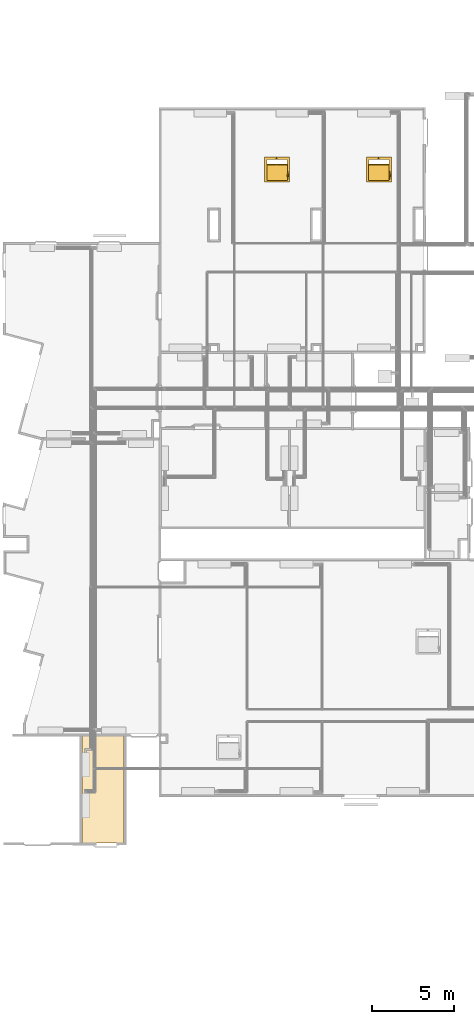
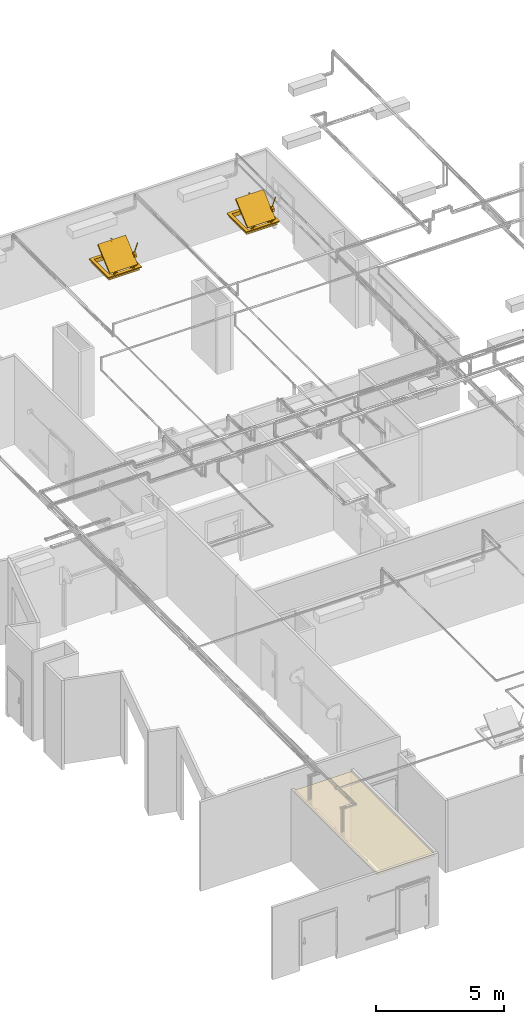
# One storey, part 40 of 652: 2 windows, 1 covering.
"""IFC2X3 building model written with IfcOpenShell, lengths in millimetres."""

from ifc_helpers import new_model, entity, si_unit, converted_unit, direction, frame, frame_2d, origin, place, context, subcontext, project, spatial, rectangle, extrude, faceted_brep, source, transform, mapped, material, material_list, layer, layer_set, layer_usage, type_object, type_shapes, element, save


model = new_model("IFC2X3")

# Units and contexts
model_context = context("Model", 3, precision=0.01, world=frame((0.0, 0.0, 308426.39999999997)), true_north=direction((6.123233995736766e-17, 1.0)))
plan_context = context("Plan", 3, precision=0.01, world=frame((0.0, 0.0, 308426.39999999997)), true_north=direction((6.123233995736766e-17, 1.0)))
body_context = subcontext(model_context, "Body", "Model", "MODEL_VIEW")
ifc_project = project(units=[si_unit("LENGTHUNIT", "METRE", prefix="MILLI"), si_unit("AREAUNIT", "SQUARE_METRE"), si_unit("VOLUMEUNIT", "CUBIC_METRE"), converted_unit("PLANEANGLEUNIT", "DEGREE", entity("IfcPlaneAngleMeasure", 0.017453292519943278), si_unit("PLANEANGLEUNIT", "RADIAN"), dimensions=[0, 0, 0, 0, 0, 0, 0])], contexts=[model_context, plan_context])

# Site, building, storey
site_placement = place(None, origin())
site = spatial("IfcSite", under=ifc_project, at=site_placement, Name="Default", CompositionType="ELEMENT")
building_placement = place(site_placement, origin())
building = spatial("IfcBuilding", under=site, at=building_placement, CompositionType="ELEMENT")
storey_placement = place(building_placement, frame((0.0, 0.0, 1730.6999999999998)))
storey = spatial("IfcBuildingStorey", under=building, at=storey_placement, Name="EG_Produktion_FFB", CompositionType="ELEMENT", Elevation=1730.6999999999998)

# Windows
ifc_material_1 = material(Name="Aluminium")
ifc_material_2 = material(Name="Edelstahl, gebürstet")
ifc_material_3 = material(Name="RAL 9002")
ifc_material_4 = material(Name="PVC, hart")
ifc_material_5 = material(Name="Edelstahl")
ifc_material_6 = material(Name="<Unnamed>")
ifc_material_list = material_list([ifc_material_1, ifc_material_2, ifc_material_3, ifc_material_4, ifc_material_5, ifc_material_6])
window_style = type_object("IfcWindowStyle", Name="Entrauchungsluke Typ RWA12 elektrisch:Entrauchungsluke", ConstructionType="NOTDEFINED", OperationType="NOTDEFINED", ParameterTakesPrecedence=False, Sizeable=False, material=ifc_material_list)
shared_shape = source(origin(), body_context, "Body", "Brep", [
    faceted_brep([(162.62066647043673, 657.4999999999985, 66.08964888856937), (158.0, 662.4999999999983, 68.0), (300.1301226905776, 662.4999999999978, 411.7775854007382), (304.7507891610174, 657.4999999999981, 409.8672342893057), (153.37933352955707, 657.4999999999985, 69.91035111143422), (295.50945622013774, 657.4999999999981, 413.68793651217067), (158.0, 652.4999999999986, 68.0), (300.13012269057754, 652.4999999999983, 411.7775854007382), (278.8750569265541, 657.4999999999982, 420.5652005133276), (283.3111001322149, 660.9875640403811, 418.7311793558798), (287.7471433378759, 664.475128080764, 416.89715819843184), (292.786678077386, 668.4371499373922, 414.8136317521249), (296.26458336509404, 671.1714374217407, 413.3757395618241), (299.742488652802, 673.9057249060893, 411.9378473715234), (303.22039394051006, 676.6400123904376, 410.4999551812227), (306.69829922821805, 679.3742998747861, 409.06206299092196), (282.3874984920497, 652.268653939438, 419.1130297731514), (286.2185015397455, 646.562850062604, 417.52915416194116), (289.8902238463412, 641.094275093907, 416.01113098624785), (293.561946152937, 635.6257001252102, 414.4931078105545), (321.38518845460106, 657.499999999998, 402.9899702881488), (316.9491452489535, 654.0124359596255, 404.82399144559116), (312.5131020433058, 650.5248719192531, 406.6580126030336), (307.4735673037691, 646.5628500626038, 408.7415390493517), (303.99566201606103, 643.8285625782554, 410.1794312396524), (300.51775672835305, 641.0942750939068, 411.6173234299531), (297.039851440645, 638.3599876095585, 413.0552156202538), (310.3700215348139, 673.9057249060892, 407.5440398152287), (314.04174384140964, 668.4371499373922, 406.0260166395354), (317.7134661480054, 662.968574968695, 404.507993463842), (611.6109382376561, 667.9626921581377, 1124.8700145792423), (615.1233798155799, 662.7313460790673, 1123.417843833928), (618.6358213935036, 657.4999999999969, 1121.9656730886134), (603.9489321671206, 679.3742998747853, 1128.0377657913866), (607.7799352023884, 673.6684960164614, 1126.4538901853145), (576.1256898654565, 657.4999999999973, 1139.5409033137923), (580.5617330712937, 660.9875640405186, 1137.7068821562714), (584.9977762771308, 664.47512808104, 1135.8728609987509), (589.433819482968, 667.9626921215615, 1134.03883984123), (593.8698626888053, 671.4502561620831, 1132.2048186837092), (598.9093974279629, 675.4122780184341, 1130.121292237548), (614.199778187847, 654.0124359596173, 1123.7996942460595), (609.7637349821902, 650.5248719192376, 1125.633715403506), (605.3276917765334, 647.0373078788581, 1127.467736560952), (600.8916485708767, 643.5497438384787, 1129.3017577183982), (595.852113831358, 639.5877219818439, 1131.3852841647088), (590.8125790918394, 635.625700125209, 1133.4688106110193), (583.469134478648, 646.5628500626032, 1136.5048569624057), (579.7974121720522, 652.0314250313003, 1138.022880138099), (587.1408567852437, 641.094275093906, 1134.9868337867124), (597.380755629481, 657.4999999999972, 1130.7532882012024), (158.0, 657.4999999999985, 68.0)], [[[0, 1, 2, 3]], [[1, 4, 5, 2]], [[5, 4, 6, 7]], [[6, 0, 3, 7]], [[2, 5, 8]], [[2, 8, 9]], [[2, 9, 10]], [[2, 10, 11]], [[2, 11, 12]], [[2, 12, 13]], [[2, 13, 14]], [[2, 14, 15]], [[2, 15, 3]], [[5, 16, 8]], [[5, 17, 16]], [[5, 18, 17]], [[5, 19, 18]], [[7, 19, 5]], [[3, 20, 7]], [[7, 20, 21]], [[7, 21, 22]], [[7, 22, 23]], [[7, 23, 24]], [[7, 24, 25]], [[7, 25, 26]], [[7, 26, 19]], [[3, 15, 27]], [[3, 27, 28]], [[3, 28, 29]], [[3, 29, 20]], [[30, 31, 32, 20, 29, 28, 27, 15, 33, 34]], [[10, 9, 8, 35, 36, 37, 38, 39, 40, 33, 15, 14, 13, 12, 11]], [[26, 25, 24, 23, 22, 21, 20, 32, 41, 42, 43, 44, 45, 46, 19]], [[47, 48, 35, 8, 16, 17, 18, 19, 46, 49]], [[50, 33, 40]], [[50, 40, 39]], [[50, 39, 38]], [[50, 38, 37]], [[50, 37, 36]], [[50, 36, 35]], [[50, 35, 48]], [[50, 34, 33]], [[50, 30, 34]], [[50, 31, 30]], [[50, 32, 31]], [[50, 48, 47]], [[50, 47, 49]], [[50, 49, 46]], [[50, 46, 45]], [[50, 45, 44]], [[50, 44, 43]], [[50, 43, 42]], [[50, 42, 41]], [[50, 41, 32]], [[1, 51, 4]], [[51, 1, 0]], [[6, 51, 0]], [[51, 6, 4]]]),
    faceted_brep([(468.9776566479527, 693.0, 368.3156556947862), (426.33381976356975, 693.0, 319.25953298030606), (256.5241642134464, 693.0, 466.8728145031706), (348.3724282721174, 693.0, 572.5321557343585), (461.57886530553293, 693.0, 474.1233013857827), (468.9776566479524, 596.0, 368.3156556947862), (461.5788653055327, 596.0, 474.1233013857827), (348.3724282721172, 596.0, 572.5321557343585), (256.52416421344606, 596.0, 466.8728145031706), (426.33381976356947, 596.0, 319.25953298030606)], [[[0, 1, 2, 3, 4]], [[5, 6, 7, 8, 9]], [[1, 0, 5, 9]], [[2, 1, 9, 8]], [[3, 2, 8, 7]], [[4, 3, 7, 6]], [[0, 4, 6, 5]]]),
    faceted_brep([(-293.4844221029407, 4.375000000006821, 1007.2635949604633), (-291.8334948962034, 6.5625000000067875, 1005.8284658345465), (-290.18256768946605, 8.750000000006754, 1004.3933367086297), (-288.5316404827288, 10.937500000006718, 1002.958207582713), (-286.8807132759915, 13.125000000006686, 1001.5230784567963), (-285.2297860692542, 15.312500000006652, 1000.0879493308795), (-283.57885886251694, 17.50000000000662, 998.6528202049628), (-303.2606297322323, 17.500000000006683, 976.0115327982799), (-304.91155693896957, 15.312500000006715, 977.4466619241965), (-306.5624841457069, 13.12500000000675, 978.8817910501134), (-308.21341135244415, 10.937500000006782, 980.31692017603), (-309.8643385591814, 8.750000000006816, 981.7520493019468), (-311.379908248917, 6.74185046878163, 983.0695139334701), (-312.89547793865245, 4.733700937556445, 984.3869785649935), (-314.6817626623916, 2.366850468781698, 985.9397721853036), (-316.4680473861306, 0.0, 987.4925658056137), (-296.7862765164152, 0.0, 1010.1338532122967), (-294.9999917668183, 2.3668505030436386, 1008.5810595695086), (-301.74505999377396, 15.491850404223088, 974.6940681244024), (-281.9279316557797, 15.312500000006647, 997.2176910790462), (-280.2770044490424, 13.125000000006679, 995.7825619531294), (-278.62607724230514, 10.937500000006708, 994.3474328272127), (-276.9751500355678, 8.75000000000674, 992.9123037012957), (-275.45958028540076, 6.741850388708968, 991.5948390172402), (-273.9440105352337, 4.73370077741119, 990.2773743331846), (-272.15772587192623, 2.366850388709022, 988.7245807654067), (-270.3714412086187, 0.0, 987.171787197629), (-290.05321207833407, 0.0, 964.530499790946), (-291.8394967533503, 2.3668504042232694, 966.0832933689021), (-293.62578142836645, 4.7337008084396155, 967.6360869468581), (-295.4120661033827, 7.100551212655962, 969.188880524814), (-297.1983507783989, 9.467401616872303, 970.7416741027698), (-298.71392051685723, 11.475551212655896, 972.0591387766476), (-300.2294902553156, 13.48370080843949, 973.3766034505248), (-273.6732956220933, -4.374999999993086, 990.0420454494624), (-275.32422282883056, -6.562499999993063, 991.4771745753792), (-276.9751500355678, -8.749999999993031, 992.912303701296), (-278.62607724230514, -10.937499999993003, 994.3474328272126), (-280.2770044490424, -13.124999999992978, 995.7825619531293), (-281.9279316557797, -15.312499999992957, 997.2176910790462), (-283.578858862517, -17.499999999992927, 998.6528202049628), (-303.26062973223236, -17.499999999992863, 976.0115327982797), (-301.60970252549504, -15.312499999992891, 974.5764036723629), (-299.9587753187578, -13.124999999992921, 973.1412745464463), (-298.3078481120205, -10.93749999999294, 971.7061454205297), (-296.6569209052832, -8.749999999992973, 970.2710162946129), (-295.14135124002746, -6.741850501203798, 968.9535516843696), (-293.62578157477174, -4.733701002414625, 967.6360870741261), (-291.8394968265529, -2.366850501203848, 966.083293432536), (-272.15772598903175, -2.3668505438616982, 988.7245808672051), (-304.7761995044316, -15.491850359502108, 977.3289975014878), (-285.22978606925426, -15.312499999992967, 1000.0879493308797), (-286.8807132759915, -13.124999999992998, 1001.5230784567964), (-288.5316404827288, -10.937499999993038, 1002.9582075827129), (-290.1825676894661, -8.74999999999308, 1004.3933367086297), (-291.6981374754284, -6.741850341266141, 1005.710801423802), (-293.2137072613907, -4.733700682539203, 1007.0282661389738), (-294.99999188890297, -2.366850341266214, 1008.5810596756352), (-314.6817627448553, -2.36685035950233, 985.9397722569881), (-312.89547810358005, -4.733700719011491, 984.3869787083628), (-311.10919346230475, -7.100551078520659, 982.8341851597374), (-309.3229088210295, -9.467401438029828, 981.2813916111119), (-307.8073390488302, -11.475551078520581, 979.9639269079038), (-306.29176927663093, -13.483700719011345, 978.6464622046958), (-295.71353393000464, 0.0, 969.4509425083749), (-307.034177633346, 8.660254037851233, 979.2918279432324), (-299.4870818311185, -8.6602540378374, 972.7312376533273), (-310.80772553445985, 0.0, 982.5721230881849), (-320.6486109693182, 0.0, 971.2514793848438), (-316.8750630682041, 8.660254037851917, 967.9711842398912), (-305.5544193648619, 0.0, 958.1302988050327), (-309.327967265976, -8.66025403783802, 961.4105939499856), (-310.08267684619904, 0.0, 962.0666529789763), (-313.10151516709, 4.0, 964.6908890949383), (-313.10151516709, -4.0, 964.6908890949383), (-316.120353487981, 0.0, 967.3151252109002), (-335.8021243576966, 0.0, 944.6738378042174), (-332.7832860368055, 4.0, 942.0496016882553), (-329.7644477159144, 0.0, 939.4253655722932), (-332.7832860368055, -4.0, 942.0496016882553), (-332.7832860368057, 0.0, 942.0496016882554), (-283.5788588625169, 0.0, 998.6528202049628)], [[[0, 1, 2, 3, 4, 5, 6, 7, 8, 9, 10, 11, 12, 13, 14, 15, 16, 17]], [[18, 7, 6, 19, 20, 21, 22, 23, 24, 25, 26, 27, 28, 29, 30, 31, 32, 33]], [[34, 35, 36, 37, 38, 39, 40, 41, 42, 43, 44, 45, 46, 47, 48, 27, 26, 49]], [[50, 41, 40, 51, 52, 53, 54, 55, 56, 57, 16, 15, 58, 59, 60, 61, 62, 63]], [[64, 7, 18]], [[7, 64, 65]], [[64, 18, 33]], [[64, 33, 32]], [[64, 32, 31]], [[64, 31, 30]], [[64, 30, 29]], [[64, 29, 28]], [[64, 28, 27]], [[27, 66, 64]], [[65, 8, 7]], [[65, 9, 8]], [[65, 10, 9]], [[65, 11, 10]], [[65, 12, 11]], [[65, 13, 12]], [[65, 14, 13]], [[65, 15, 14]], [[65, 67, 15]], [[41, 67, 66]], [[67, 41, 50]], [[67, 50, 63]], [[67, 63, 62]], [[67, 62, 61]], [[67, 61, 60]], [[67, 60, 59]], [[67, 59, 58]], [[67, 58, 15]], [[66, 27, 48]], [[66, 48, 47]], [[66, 47, 46]], [[66, 46, 45]], [[66, 45, 44]], [[66, 44, 43]], [[66, 43, 42]], [[66, 42, 41]], [[68, 67, 65, 69]], [[65, 64, 70, 69]], [[70, 64, 66, 71]], [[66, 67, 68, 71]], [[70, 72, 73]], [[70, 73, 69]], [[70, 71, 72]], [[72, 71, 74]], [[68, 74, 71]], [[75, 68, 69]], [[74, 68, 75]], [[75, 69, 73]], [[76, 75, 73, 77]], [[73, 72, 78, 77]], [[78, 72, 74, 79]], [[74, 75, 76, 79]], [[78, 80, 77]], [[78, 79, 80]], [[76, 80, 79]], [[76, 77, 80]], [[81, 26, 25]], [[81, 25, 24]], [[81, 24, 23]], [[81, 23, 22]], [[81, 22, 21]], [[81, 21, 20]], [[81, 20, 19]], [[81, 19, 6]], [[81, 6, 5]], [[81, 5, 4]], [[81, 4, 3]], [[81, 3, 2]], [[81, 2, 1]], [[81, 1, 0]], [[81, 0, 17]], [[81, 17, 16]], [[81, 16, 57]], [[81, 49, 26]], [[81, 34, 49]], [[81, 35, 34]], [[81, 36, 35]], [[81, 37, 36]], [[81, 38, 37]], [[81, 39, 38]], [[81, 40, 39]], [[81, 57, 56]], [[81, 56, 55]], [[81, 55, 54]], [[81, 54, 53]], [[81, 53, 52]], [[81, 52, 51]], [[81, 51, 40]]]),
    faceted_brep([(-331.3352769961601, -30.0, 1017.6416202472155), (-233.22303156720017, -30.0, 932.3539464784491), (-230.59879545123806, -30.0, 935.3727847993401), (-328.71104088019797, -30.0, 1020.6604585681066), (-331.3352769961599, 30.0, 1017.6416202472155), (-328.71104088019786, 30.0, 1020.6604585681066), (-230.59879545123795, 30.0, 935.3727847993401), (-233.22303156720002, 30.0, 932.3539464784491)], [[[0, 1, 2, 3]], [[4, 5, 6, 7]], [[1, 0, 4, 7]], [[2, 1, 7, 6]], [[3, 2, 6, 5]], [[0, 3, 5, 4]]]),
    faceted_brep([(590.5100687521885, -596.0, 110.2926474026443), (-309.1037508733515, -596.0, 892.3150099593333), (-335.34611203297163, -596.0, 862.1266267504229), (564.267707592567, -596.0, 80.10426419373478), (590.5100687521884, 596.0, 110.29264740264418), (564.267707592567, 596.0, 80.10426419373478), (-335.34611203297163, 596.0, 862.1266267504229), (-309.1037508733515, 596.0, 892.3150099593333)], [[[0, 1, 2, 3]], [[4, 5, 6, 7]], [[1, 0, 4, 7]], [[2, 1, 7, 6]], [[3, 2, 6, 5]], [[0, 3, 5, 4]]]),
    faceted_brep([(625.5178271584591, 376.0, 106.36112716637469), (645.1995980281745, 376.0, 129.00241457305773), (667.8408854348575, 376.0, 109.32064370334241), (669.0617660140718, 376.0, 105.77494904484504), (670.2826465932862, 376.0, 102.22925438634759), (671.5035271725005, 376.0, 98.68355972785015), (672.7244077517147, 376.0, 95.13786506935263), (670.2641863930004, 376.0, 92.3077041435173), (667.8039650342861, 376.0, 89.47754321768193), (665.3437436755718, 376.0, 86.64738229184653), (662.8835223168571, 376.0, 83.81722136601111), (659.2024203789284, 376.0, 84.53275509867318), (655.5213184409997, 376.0, 85.24828883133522), (651.6524966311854, 376.0, 86.00031161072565), (648.1591145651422, 376.0, 86.67935629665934), (672.7244077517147, 281.0, 95.13786506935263), (671.4412676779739, 281.0, 98.86437442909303), (670.1581276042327, 281.0, 102.59088378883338), (668.9995065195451, 281.0, 105.95576374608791), (667.8408854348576, 281.0, 109.32064370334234), (645.1995980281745, 281.0, 129.00241457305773), (625.5178271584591, 281.0, 106.36112716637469), (648.1591145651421, 281.0, 86.67935629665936), (651.8402165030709, 281.0, 85.96382256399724), (655.5213184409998, 281.0, 85.2482888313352), (659.2024203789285, 281.0, 84.53275509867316), (662.8835223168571, 281.0, 83.81722136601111), (665.3437436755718, 281.0, 86.64738229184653), (667.8039650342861, 281.0, 89.47754321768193), (670.2641863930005, 281.0, 92.30770414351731)], [[[0, 1, 2, 3, 4, 5, 6, 7, 8, 9, 10, 11, 12, 13, 14]], [[15, 16, 17, 18, 19, 20, 21, 22, 23, 24, 25, 26, 27, 28, 29]], [[1, 0, 21, 20]], [[0, 14, 22, 21]], [[4, 3, 2, 19, 18, 17, 16, 15, 6, 5]], [[23, 22, 14, 13, 12, 11, 10, 26, 25, 24]], [[9, 8, 7, 6, 15, 29, 28, 27, 26, 10]], [[2, 1, 20, 19]]]),
    faceted_brep([(643.0, 471.0, 50.0), (643.0, 471.0, 98.0), (644.8749999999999, 471.0, 101.24759526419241), (646.7499999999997, 471.0, 104.49519052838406), (648.6249999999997, 471.0, 107.74278579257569), (650.4999999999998, 471.0, 110.9903810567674), (654.2499999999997, 471.0, 110.99038105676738), (658.0, 471.0, 110.99038105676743), (661.7499999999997, 471.0, 110.99038105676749), (665.4999999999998, 471.0, 110.99038105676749), (667.3749999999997, 471.0, 107.74278579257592), (669.2499999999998, 471.0, 104.49519052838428), (671.220616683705, 471.0, 101.08198230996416), (673.0, 471.0, 98.0), (673.0, 471.0, 50.0), (643.0, 376.0, 98.0), (643.0, 376.0, 50.0), (673.0, 376.0, 50.0), (673.0, 376.0, 98.0), (671.1249999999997, 376.0, 101.24759526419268), (669.2499999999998, 376.0, 104.4951905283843), (667.3749999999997, 376.0, 107.74278579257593), (665.4999999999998, 376.0, 110.99038105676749), (661.7499999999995, 376.0, 110.9903810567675), (658.0, 376.0, 110.99038105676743), (654.2499999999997, 376.0, 110.99038105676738), (650.4999999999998, 376.0, 110.9903810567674), (648.5293833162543, 376.0, 107.57717283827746), (646.558766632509, 376.0, 104.16396461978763), (644.7793833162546, 376.0, 101.0819823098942)], [[[0, 1, 2, 3, 4, 5, 6, 7, 8, 9, 10, 11, 12, 13, 14]], [[15, 16, 17, 18, 19, 20, 21, 22, 23, 24, 25, 26, 27, 28, 29]], [[0, 14, 17, 16]], [[14, 13, 18, 17]], [[3, 2, 1, 15, 29, 28, 27, 26, 5, 4]], [[19, 18, 13, 12, 11, 10, 9, 22, 21, 20]], [[8, 7, 6, 5, 26, 25, 24, 23, 22, 9]], [[1, 0, 16, 15]]]),
    faceted_brep([(664.88136889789, -625.0, 151.64370197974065), (-278.50560638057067, -625.0, 971.7174882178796), (-330.99032869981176, -625.0, 911.3407218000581), (612.396646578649, -625.0, 91.26693556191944), (664.88136889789, 625.0, 151.64370197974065), (612.396646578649, 625.0, 91.26693556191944), (-330.99032869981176, 625.0, 911.3407218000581), (-278.50560638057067, 625.0, 971.7174882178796)], [[[0, 1, 2, 3]], [[4, 5, 6, 7]], [[1, 0, 4, 7]], [[2, 1, 7, 6]], [[3, 2, 6, 5]], [[0, 3, 5, 4]]]),
    faceted_brep([(648.1591145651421, -376.0, 86.6793562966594), (651.8402165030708, -376.0, 85.96382256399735), (655.5213184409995, -376.0, 85.24828883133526), (659.2024203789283, -376.0, 84.53275509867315), (662.883522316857, -376.0, 83.81722136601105), (665.3437436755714, -376.0, 86.64738229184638), (667.8039650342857, -376.0, 89.47754321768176), (670.2641863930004, -376.0, 92.30770414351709), (672.7244077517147, -376.0, 95.13786506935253), (671.5035271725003, -376.0, 98.6835597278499), (670.2826465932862, -376.0, 102.22925438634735), (668.9995065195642, -376.0, 105.95576374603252), (667.8408854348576, -376.0, 109.32064370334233), (645.1995980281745, -376.0, 129.00241457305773), (625.5178271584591, -376.0, 106.36112716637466), (667.8408854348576, -281.0, 109.32064370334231), (669.0617660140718, -281.0, 105.7749490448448), (670.2826465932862, -281.0, 102.22925438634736), (671.5035271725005, -281.0, 98.6835597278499), (672.7244077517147, -281.0, 95.13786506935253), (670.2641863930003, -281.0, 92.30770414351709), (667.8039650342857, -281.0, 89.47754321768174), (665.3437436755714, -281.0, 86.64738229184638), (662.883522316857, -281.0, 83.81722136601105), (659.0147005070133, -281.0, 84.56924414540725), (655.1458786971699, -281.0, 85.32126692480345), (651.6524966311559, -281.0, 86.00031161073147), (648.1591145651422, -281.0, 86.67935629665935), (625.5178271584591, -281.0, 106.36112716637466), (645.1995980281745, -281.0, 129.00241457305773)], [[[0, 1, 2, 3, 4, 5, 6, 7, 8, 9, 10, 11, 12, 13, 14]], [[15, 16, 17, 18, 19, 20, 21, 22, 23, 24, 25, 26, 27, 28, 29]], [[14, 13, 29, 28]], [[0, 14, 28, 27]], [[2, 1, 0, 27, 26, 25, 24, 23, 4, 3]], [[16, 15, 12, 11, 10, 9, 8, 19, 18, 17]], [[7, 6, 5, 4, 23, 22, 21, 20, 19, 8]], [[13, 12, 15, 29]]]),
    faceted_brep([(673.0, -471.0, 98.0), (671.1249999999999, -471.0, 101.24759526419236), (669.25, -471.0, 104.49519052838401), (667.375, -471.0, 107.74278579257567), (665.5, -471.0, 110.9903810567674), (661.7500000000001, -471.0, 110.9903810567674), (658.0, -471.0, 110.99038105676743), (654.2500000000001, -471.0, 110.99038105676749), (650.4999999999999, -471.0, 110.99038105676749), (648.6250000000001, -471.0, 107.74278579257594), (646.75, -471.0, 104.49519052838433), (644.7793833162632, -471.0, 101.08198230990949), (643.0, -471.0, 98.0), (643.0, -471.0, 50.0), (673.0, -471.0, 50.0), (673.0, -376.0, 98.0), (673.0, -376.0, 50.0), (643.0, -376.0, 50.0), (643.0, -376.0, 98.0), (644.8749999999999, -376.0, 101.24759526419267), (646.75, -376.0, 104.49519052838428), (648.6250000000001, -376.0, 107.74278579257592), (650.4999999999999, -376.0, 110.99038105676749), (654.25, -376.0, 110.99038105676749), (658.0, -376.0, 110.99038105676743), (661.7500000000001, -376.0, 110.9903810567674), (665.5, -376.0, 110.9903810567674), (667.4706166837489, -376.0, 107.57717283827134), (669.4412333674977, -376.0, 104.16396461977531), (671.2206166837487, -376.0, 101.081982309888)], [[[0, 1, 2, 3, 4, 5, 6, 7, 8, 9, 10, 11, 12, 13, 14]], [[15, 16, 17, 18, 19, 20, 21, 22, 23, 24, 25, 26, 27, 28, 29]], [[14, 13, 17, 16]], [[0, 14, 16, 15]], [[2, 1, 0, 15, 29, 28, 27, 26, 4, 3]], [[19, 18, 12, 11, 10, 9, 8, 22, 21, 20]], [[7, 6, 5, 4, 26, 25, 24, 23, 22, 8]], [[13, 12, 18, 17]]]),
    faceted_brep([(-603.0, 603.0, 50.0), (-603.0, 603.0, 0.0), (603.0, 603.0, 0.0), (603.0, 603.0, 50.0), (-753.0, 753.0, 0.0), (-753.0, 753.0, 50.0), (753.0, 753.0, 50.0), (753.0, 753.0, 0.0), (603.0, -603.0, 0.0), (603.0, -603.0, 50.0), (753.0, -753.0, 50.0), (753.0, -753.0, 0.0), (-603.0, -603.0, 0.0), (-603.0, -603.0, 50.0), (-753.0, -753.0, 50.0), (-753.0, -753.0, 0.0)], [[[0, 1, 2, 3]], [[4, 5, 6, 7]], [[3, 2, 8, 9]], [[7, 6, 10, 11]], [[9, 8, 12, 13]], [[11, 10, 14, 15]], [[7, 11, 15, 4], [1, 12, 8, 2]], [[13, 12, 1, 0]], [[3, 9, 13, 0], [5, 14, 10, 6]], [[15, 14, 5, 4]]], outer=[[True], [True], [True], [True], [True], [True], [True, False], [True], [False, True], [True]]),
    faceted_brep([(-623.0, 623.0, -100.0), (-623.0, 623.0, 0.0), (623.0, 623.0, 0.0), (623.0, 623.0, -100.0), (-703.0, 703.0, -130.0), (-703.0, 703.0, -100.0), (703.0, 703.0, -100.0), (703.0, 703.0, -130.0), (-603.0, 603.0, 0.0), (-603.0, 603.0, -130.0), (603.0, 603.0, -130.0), (603.0, 603.0, 0.0), (623.0, -623.0, 0.0), (623.0, -623.0, -100.0), (703.0, -703.0, -100.0), (703.0, -703.0, -130.0), (603.0, -603.0, -130.0), (603.0, -603.0, 0.0), (-623.0, -623.0, 0.0), (-623.0, -623.0, -100.0), (-703.0, -703.0, -100.0), (-703.0, -703.0, -130.0), (-603.0, -603.0, -130.0), (-603.0, -603.0, 0.0)], [[[0, 1, 2, 3]], [[4, 5, 6, 7]], [[8, 9, 10, 11]], [[3, 2, 12, 13]], [[7, 6, 14, 15]], [[11, 10, 16, 17]], [[13, 12, 18, 19]], [[15, 14, 20, 21]], [[17, 16, 22, 23]], [[11, 17, 23, 8], [1, 18, 12, 2]], [[19, 18, 1, 0]], [[3, 13, 19, 0], [5, 20, 14, 6]], [[21, 20, 5, 4]], [[7, 15, 21, 4], [9, 22, 16, 10]], [[23, 22, 9, 8]]], outer=[[True], [True], [True], [True], [True], [True], [True], [True], [True], [False, True], [True], [False, True], [True], [True, False], [True]]),
    faceted_brep([(130.4999999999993, 642.5000000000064, 78.0), (83.0, 642.5000000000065, 60.0), (83.0, 642.5000000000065, 50.0), (233.0, 642.5000000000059, 50.0), (233.0, 642.5000000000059, 60.0), (185.49999999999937, 642.5000000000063, 78.0), (130.4999999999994, 672.5000000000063, 78.0), (185.49999999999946, 672.5000000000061, 78.0), (233.0, 672.5000000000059, 60.0), (233.0, 672.5000000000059, 50.0), (83.0, 672.5000000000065, 50.0), (83.0, 672.5000000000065, 60.0)], [[[0, 1, 2, 3, 4, 5]], [[6, 7, 8, 9, 10, 11]], [[1, 0, 6, 11]], [[2, 1, 11, 10]], [[3, 2, 10, 9]], [[4, 3, 9, 8]], [[5, 4, 8, 7]], [[0, 5, 7, 6]]]),
    faceted_brep([(-689.0, 12.0, 99.0), (-689.0, -70.0, 99.0), (-644.0, -70.0, 99.0), (-644.0, 12.0, 99.0), (-689.0, 12.0, 50.0), (-644.0, 12.0, 50.0), (-644.0, -70.0, 50.0), (-689.0, -70.0, 50.0)], [[[0, 1, 2, 3]], [[4, 5, 6, 7]], [[1, 0, 4, 7]], [[2, 1, 7, 6]], [[3, 2, 6, 5]], [[0, 3, 5, 4]]]),
])
type_shapes(window_style, [shared_shape])
for number, where, z_axis, x_axis, name in (
    (1, (26340.000000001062, 74425.0, 3100.0), (0.0, 0.0, 1.0), (0.0, -1.0, 0.0), "Entrauchungsluke Typ RWA12 elektrisch:Entrauchungsluke"),
    (2, (32550.000000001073, 74425.0, 3100.0), (0.0, 0.0, 1.0), (0.0, -1.0, 0.0), "Entrauchungsluke Typ RWA12 elektrisch:Entrauchungsluke"),
):
    element("IfcWindow", number, at=place(storey_placement, frame(where, z_axis=z_axis, x_axis=x_axis)), inside=storey, type_object=window_style, material=ifc_material_list, Name=name, ObjectType="Entrauchungsluke Typ RWA12 elektrisch:Entrauchungsluke", OverallHeight=1506.0000000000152, OverallWidth=1505.999999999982, context=body_context, shape_type="MappedRepresentation", body=[
        mapped(shared_shape, transform((0.0, 0.0, 0.0), scale=1.0)),
    ])

# Covering
ifc_material_7 = material(Name="GPG_Kühlraum")
ifc_layer_1 = layer(ifc_material_7, 8.0)
ifc_layer_2 = layer(ifc_material_7, 84.0)
ifc_layer_3 = layer(ifc_material_7, 8.0)
ifc_layer_set = layer_set([ifc_layer_1, ifc_layer_2, ifc_layer_3], Name="Deckensystem:Kühlraum 100")
ifc_layer_usage = layer_usage(ifc_layer_set, "AXIS3", "NEGATIVE", 100.0)
covering_type = type_object("IfcCoveringType", Name="Deckensystem:Kühlraum 100", PredefinedType="CEILING")
covering_placement = place(storey_placement, origin())
element("IfcCovering", 3, at=covering_placement, inside=storey, type_object=covering_type, material=ifc_layer_usage, Name="Deckensystem:Kühlraum 100", ObjectType="Deckensystem:Kühlraum 100", PredefinedType="CEILING", context=body_context, shape_type="SweptSolid", body=[
    extrude(rectangle(XDim=2580.0000000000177, YDim=6499.9999999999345, at=frame_2d((-1.1368683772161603e-12, 0.0), x_axis=(1.0, 0.0))), frame((15740.0, 36650.0, 3000.0)), (0.0, 0.0, 1.0), 100.0),
])

save(model, "model.ifc")
